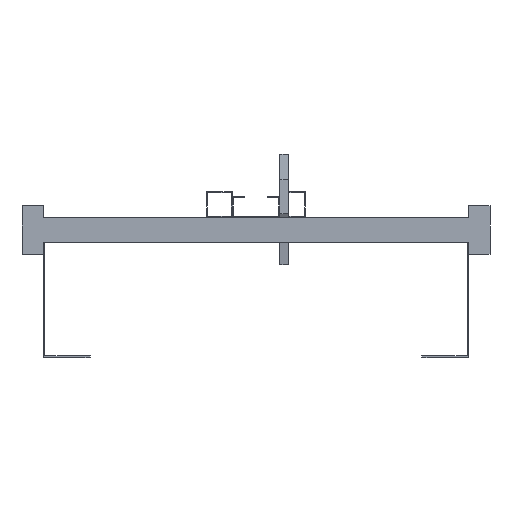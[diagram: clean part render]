
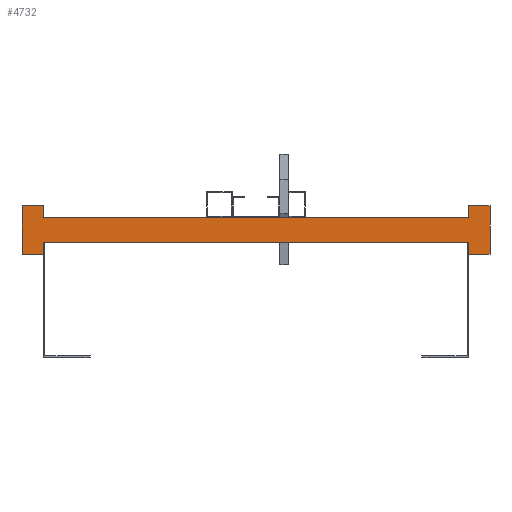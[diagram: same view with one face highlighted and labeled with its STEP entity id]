
A CAD part, front view. The second image highlights one B-rep face of the part: STEP entity #4732.
In plain terms, the highlighted planar face has unit normal (0, -1, 0).
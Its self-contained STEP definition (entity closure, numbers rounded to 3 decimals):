
#1701=DIRECTION('',(0.,0.,1.));
#1702=VECTOR('',#1701,13.5);
#1703=CARTESIAN_POINT('',(250.,0.,-28.5));
#1704=LINE('',#1703,#1702);
#1705=DIRECTION('',(0.,0.,-1.));
#1706=VECTOR('',#1705,13.5);
#1707=CARTESIAN_POINT('',(-250.,0.,-15.));
#1708=LINE('',#1707,#1706);
#1709=DIRECTION('',(-1.,0.,0.));
#1710=VECTOR('',#1709,25.);
#1711=CARTESIAN_POINT('',(-250.,0.,-28.5));
#1712=LINE('',#1711,#1710);
#1713=DIRECTION('',(0.,0.,1.));
#1714=VECTOR('',#1713,57.);
#1715=CARTESIAN_POINT('',(-275.,0.,-28.5));
#1716=LINE('',#1715,#1714);
#1717=DIRECTION('',(1.,0.,0.));
#1718=VECTOR('',#1717,25.);
#1719=CARTESIAN_POINT('',(-275.,0.,28.5));
#1720=LINE('',#1719,#1718);
#1721=DIRECTION('',(0.,0.,-1.));
#1722=VECTOR('',#1721,13.5);
#1723=CARTESIAN_POINT('',(-250.,0.,28.5));
#1724=LINE('',#1723,#1722);
#1725=DIRECTION('',(0.,0.,1.));
#1726=VECTOR('',#1725,13.5);
#1727=CARTESIAN_POINT('',(250.,0.,15.));
#1728=LINE('',#1727,#1726);
#1729=DIRECTION('',(1.,0.,0.));
#1730=VECTOR('',#1729,25.);
#1731=CARTESIAN_POINT('',(250.,0.,28.5));
#1732=LINE('',#1731,#1730);
#1733=DIRECTION('',(0.,0.,-1.));
#1734=VECTOR('',#1733,57.);
#1735=CARTESIAN_POINT('',(275.,0.,28.5));
#1736=LINE('',#1735,#1734);
#1737=DIRECTION('',(-1.,0.,0.));
#1738=VECTOR('',#1737,25.);
#1739=CARTESIAN_POINT('',(275.,0.,-28.5));
#1740=LINE('',#1739,#1738);
#1741=DIRECTION('',(1.,0.,0.));
#1742=VECTOR('',#1741,500.);
#1743=CARTESIAN_POINT('',(-250.,0.,-15.));
#1744=LINE('',#1743,#1742);
#1753=DIRECTION('',(1.,0.,0.));
#1754=VECTOR('',#1753,500.);
#1755=CARTESIAN_POINT('',(-250.,0.,15.));
#1756=LINE('',#1755,#1754);
#1809=CARTESIAN_POINT('',(-275.,0.,28.5));
#1810=CARTESIAN_POINT('',(-250.,0.,28.5));
#1811=VERTEX_POINT('',#1809);
#1812=VERTEX_POINT('',#1810);
#1813=CARTESIAN_POINT('',(-250.,0.,-28.5));
#1814=CARTESIAN_POINT('',(-275.,0.,-28.5));
#1815=VERTEX_POINT('',#1813);
#1816=VERTEX_POINT('',#1814);
#1817=CARTESIAN_POINT('',(275.,0.,28.5));
#1818=CARTESIAN_POINT('',(275.,0.,-28.5));
#1819=VERTEX_POINT('',#1817);
#1820=VERTEX_POINT('',#1818);
#1821=CARTESIAN_POINT('',(250.,0.,-28.5));
#1822=VERTEX_POINT('',#1821);
#1823=CARTESIAN_POINT('',(250.,0.,28.5));
#1824=VERTEX_POINT('',#1823);
#1841=CARTESIAN_POINT('',(-250.,0.,-15.));
#1843=VERTEX_POINT('',#1841);
#1845=CARTESIAN_POINT('',(-250.,0.,15.));
#1847=VERTEX_POINT('',#1845);
#1849=CARTESIAN_POINT('',(250.,0.,-15.));
#1851=VERTEX_POINT('',#1849);
#1853=CARTESIAN_POINT('',(250.,0.,15.));
#1855=VERTEX_POINT('',#1853);
#4707=CARTESIAN_POINT('',(0.,0.,0.));
#4708=DIRECTION('',(0.,1.,0.));
#4709=DIRECTION('',(1.,0.,0.));
#4710=AXIS2_PLACEMENT_3D('',#4707,#4708,#4709);
#4711=PLANE('',#4710);
#4712=ORIENTED_EDGE('',*,*,#2734,.T.);
#4714=ORIENTED_EDGE('',*,*,#4713,.F.);
#4715=ORIENTED_EDGE('',*,*,#2456,.T.);
#4716=ORIENTED_EDGE('',*,*,#3713,.T.);
#4718=ORIENTED_EDGE('',*,*,#4717,.T.);
#4720=ORIENTED_EDGE('',*,*,#4719,.T.);
#4721=ORIENTED_EDGE('',*,*,#2464,.T.);
#4723=ORIENTED_EDGE('',*,*,#4722,.T.);
#4724=ORIENTED_EDGE('',*,*,#2726,.T.);
#4726=ORIENTED_EDGE('',*,*,#4725,.T.);
#4728=ORIENTED_EDGE('',*,*,#4727,.T.);
#4729=ORIENTED_EDGE('',*,*,#4030,.T.);
#4730=EDGE_LOOP('',(#4712,#4714,#4715,#4716,#4718,#4720,#4721,#4723,#4724,#4726,
#4728,#4729));
#4731=FACE_OUTER_BOUND('',#4730,.F.);
#2456=EDGE_CURVE('',#1843,#1815,#1708,.T.);
#2464=EDGE_CURVE('',#1812,#1847,#1724,.T.);
#2726=EDGE_CURVE('',#1855,#1824,#1728,.T.);
#2734=EDGE_CURVE('',#1822,#1851,#1704,.T.);
#3713=EDGE_CURVE('',#1815,#1816,#1712,.T.);
#4030=EDGE_CURVE('',#1820,#1822,#1740,.T.);
#4713=EDGE_CURVE('',#1843,#1851,#1744,.T.);
#4717=EDGE_CURVE('',#1816,#1811,#1716,.T.);
#4719=EDGE_CURVE('',#1811,#1812,#1720,.T.);
#4722=EDGE_CURVE('',#1847,#1855,#1756,.T.);
#4725=EDGE_CURVE('',#1824,#1819,#1732,.T.);
#4727=EDGE_CURVE('',#1819,#1820,#1736,.T.);
#4732=ADVANCED_FACE('',(#4731),#4711,.F.);
